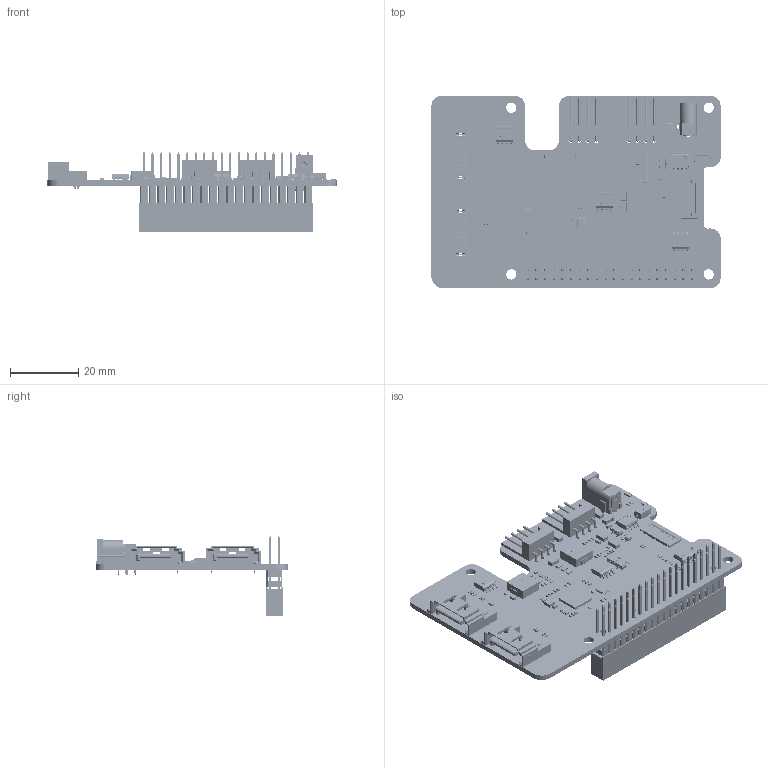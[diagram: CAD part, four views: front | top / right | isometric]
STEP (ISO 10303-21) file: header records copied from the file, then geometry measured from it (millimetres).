
FILE_DESCRIPTION((''),'2;1');
FILE_NAME('PCIE_TO_2-CH_SATA_HAT-_ASM','2025-11-08T19:15:36',('ag'),(''),'CREO PARAMETRIC BY PTC INC, 2021063','CREO PARAMETRIC BY PTC INC, 2021063','');
FILE_SCHEMA(('CONFIG_CONTROL_DESIGN','SHAPE_APPEARANCE_LAYERS_GROUPS'));
Products named in the file (196): BOARD; _2_1_20001; 5_1_2_A; _7_AF0; R_0402-3099_AF0_ASM_ASM; R_0402-5222_AF0_ASM_ASM; R0402_ASM; R6_ASM; EXTRUDED-49273; 827716896_ASM; LED1_ASM; USER_LIBRARY-SOIC-8-150_PIN_SOI; USER_LIBRARY-SOIC-8-150_SOIC_15; USER_LIBRARY-SOIC-8-150_ASM; U7_ASM; _1_10001; 3_1_A; 2_100; C_0402-672_AF0_ASM_ASM; C_0402-4045_AF0_ASM_ASM; C_0402_ASM; C65_ASM; C64_ASM; C63_ASM; C62_ASM; R34_ASM; R40_ASM; USER_LIBRARY-3225-1_1; USER_LIBRARY-3225-1_2; USER_LIBRARY-3225-1_3; USER_LIBRARY-3225-1_4; USER_LIBRARY-3225-1_5; USER_LIBRARY-3225-1_6; USER_LIBRARY-3225-1_ASM; X1_ASM; QFN48_7X7; U6_ASM; U4_ASM; EXTRUDED-126728; 1261401632_ASM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
Assembly tree (345 placements, depth 6):
  PCIE_TO_2-CH_SATA_HAT-_ASM
    BOARD
    R6_ASM
      R0402_ASM
        R_0402-5222_AF0_ASM_ASM
          R_0402-3099_AF0_ASM_ASM
            _2_1_20001
            5_1_2_A
            _7_AF0
    LED1_ASM
      827716896_ASM
        EXTRUDED-49273
    U7_ASM
      USER_LIBRARY-SOIC-8-150_ASM
        USER_LIBRARY-SOIC-8-150_PIN_SOI  x8
        USER_LIBRARY-SOIC-8-150_SOIC_15
    C65_ASM
      C_0402_ASM
        C_0402-4045_AF0_ASM_ASM
          C_0402-672_AF0_ASM_ASM
            _1_10001
            3_1_A
            2_100
    C64_ASM
      C_0402_ASM
        C_0402-4045_AF0_ASM_ASM
          C_0402-672_AF0_ASM_ASM
            _1_10001
            3_1_A
            2_100
    C63_ASM
      C_0402_ASM
        C_0402-4045_AF0_ASM_ASM
          C_0402-672_AF0_ASM_ASM
            _1_10001
            3_1_A
            2_100
    C62_ASM
      C_0402_ASM
        C_0402-4045_AF0_ASM_ASM
          C_0402-672_AF0_ASM_ASM
            _1_10001
            3_1_A
            2_100
    R34_ASM
      R0402_ASM
        R_0402-5222_AF0_ASM_ASM
          R_0402-3099_AF0_ASM_ASM
            _2_1_20001
            5_1_2_A
            _7_AF0
    R40_ASM
      R0402_ASM
        R_0402-5222_AF0_ASM_ASM
          R_0402-3099_AF0_ASM_ASM
            _2_1_20001
            5_1_2_A
            _7_AF0
    X1_ASM
      USER_LIBRARY-3225-1_ASM
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Bounding box: 85.02 x 56.52 x 23.3 mm (x, y, z)
Volume: 12351.1 mm3; surface area: 22760.1 mm2
Topology: 402 solids, 405 shells, 45148 faces, 119761 edges, 78717 vertices
Faces by surface type: plane 33972, extrusion 7810, cylinder 2758, sphere 540, torus 50, bspline 16, cone 2
Entity records: 342145 total; most frequent: CARTESIAN_POINT 71843, ORIENTED_EDGE 41445, DIRECTION 35196, PRESENTATION_STYLE_ASSIGNMENT 21406, EDGE_CURVE 20741, STYLED_ITEM 19392, CURVE_STYLE 19339, VECTOR 18086
